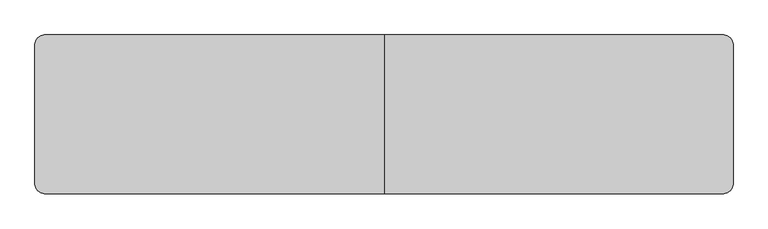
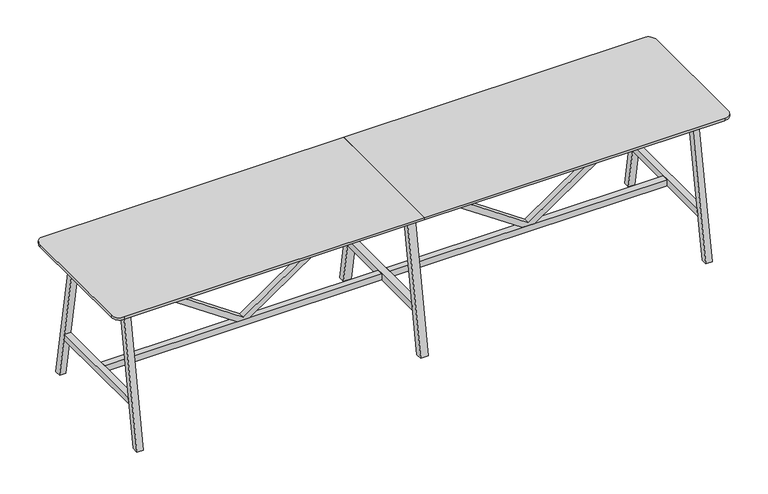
"""IFC4 building model written with IfcOpenShell, lengths in millimetres: furniture geometry, BDG_BossDesign_Tbls_AgentTables6Legs : AGE-HT-6L-4400-1000-3D."""

from ifc_helpers import new_model, si_unit, point, frame, frame_2d, origin, place, context, project, spatial, polyline, circle_curve, trimmed, segment, composite_curve, outline, extrude, source, transform, mapped, element, save


def furniture_1006f0d8(model_context):
    return source(origin(), model_context, "Body", "SweptSolid", [
        extrude(outline(polyline([(345.0, 974.0823957), (345.0, 1058.4176043), (992.0, 2005.0), (1032.0, 2005.0), (1032.0, 1985.0), (365.0, 1016.25), (1032.0, 47.5), (1032.0, 27.5), (992.0, 27.5), (345.0, 974.0823957)])), frame((0.0, -22.5000305, 0.0), z_axis=(0.0, 1.0, 0.0), x_axis=(0.0, 0.0, 1.0)), (0.0, 0.0, 1.0), 45.000061),
        extrude(outline(polyline([(345.0, -974.0823957), (992.0, -27.5), (1032.0, -27.5), (1032.0, -47.5), (365.0, -1016.25), (1032.0, -1985.0), (1032.0, -2005.0), (992.0, -2005.0), (345.0, -1058.4176043), (345.0, -974.0823957)])), frame((0.0, -22.5000305, 0.0), z_axis=(0.0, 1.0, 0.0), x_axis=(0.0, 0.0, 1.0)), (0.0, 0.0, 1.0), 45.000061),
        extrude(outline(polyline([(500.0, 0.0), (454.9999949, 0.0), (285.5, 970.0), (330.5000051, 970.0), (500.0, 0.0)])), frame((-27.5, 0.0, 0.0), z_axis=(1.0, 0.0, 0.0), x_axis=(0.0, 1.0, 0.0)), (0.0, 0.0, 1.0), 55.0),
        extrude(outline(polyline([(-500.0, 0.0), (-330.5000051, 970.0), (-285.5, 970.0), (-454.9999949, 0.0), (-500.0, 0.0)])), frame((-27.5, 0.0, 0.0), z_axis=(1.0, 0.0, 0.0), x_axis=(0.0, 1.0, 0.0)), (0.0, 0.0, 1.0), 55.0),
        extrude(outline(polyline([(402.5773161, 300.0), (-402.5773161, 300.0), (-394.7139143, 345.0), (394.7139143, 345.0), (402.5773161, 300.0)])), frame((-27.5, 0.0, 0.0), z_axis=(1.0, 0.0, 0.0), x_axis=(0.0, 1.0, 0.0)), (0.0, 0.0, 1.0), 55.0),
        extrude(outline(composite_curve([segment(polyline([(0.0, 500.0), (0.0, -500.0), (-2140.0, -500.0)]), True, "CONTINUOUS"), segment(trimmed(circle_curve(frame_2d((-2140.0, -440.0)), 60.0), [point((-2140.0, -500.0))], [point((-2200.0, -440.0))], False, "CARTESIAN"), True, "CONTINUOUS"), segment(polyline([(-2200.0, -440.0), (-2200.0, 440.0)]), True, "CONTINUOUS"), segment(trimmed(circle_curve(frame_2d((-2140.0, 440.0)), 60.0), [point((-2200.0, 440.0))], [point((-2140.0, 500.0))], False, "CARTESIAN"), True, "CONTINUOUS"), segment(polyline([(-2140.0, 500.0), (0.0, 500.0)]), True, "CONTINUOUS")], self_intersect=False)), frame((0.0, 0.0, 1032.0), z_axis=(0.0, 0.0, 1.0), x_axis=(1.0, 0.0, 0.0)), (0.0, 0.0, 1.0), 18.0),
        extrude(outline(polyline([(-394.7139143, 345.0), (394.7139143, 345.0), (402.5773161, 300.0), (-402.5773161, 300.0), (-394.7139143, 345.0)])), frame((2005.0, 0.0, 0.0), z_axis=(1.0, 0.0, 0.0), x_axis=(0.0, 1.0, 0.0)), (0.0, 0.0, 1.0), 45.0),
        extrude(outline(polyline([(500.0, 0.0), (454.9999949, 0.0), (285.5, 970.0), (330.5000051, 970.0), (500.0, 0.0)])), frame((-2050.0, 0.0, 0.0), z_axis=(1.0, 0.0, 0.0), x_axis=(0.0, 1.0, 0.0)), (0.0, 0.0, 1.0), 45.0),
        extrude(outline(polyline([(-500.0, 0.0), (-330.5000051, 970.0), (-285.5, 970.0), (-454.9999949, 0.0), (-500.0, 0.0)])), frame((-2050.0, 0.0, 0.0), z_axis=(1.0, 0.0, 0.0), x_axis=(0.0, 1.0, 0.0)), (0.0, 0.0, 1.0), 45.0),
        extrude(outline(polyline([(-394.7139143, 345.0), (394.7139143, 345.0), (402.5773161, 300.0), (-402.5773161, 300.0), (-394.7139143, 345.0)])), frame((-2050.0, 0.0, 0.0), z_axis=(1.0, 0.0, 0.0), x_axis=(0.0, 1.0, 0.0)), (0.0, 0.0, 1.0), 45.0),
        extrude(outline(polyline([(-326.6006165, 944.973938), (-304.2770691, 1032.0), (-279.5, 1032.0), (-301.8235474, 944.973938), (-326.6006165, 944.973938)])), frame((-2005.0, 0.0, 0.0), z_axis=(1.0, 0.0, 0.0), x_axis=(0.0, 1.0, 0.0)), (0.0, 0.0, 1.0), 4010.0),
        extrude(outline(polyline([(326.6006165, 944.973938), (301.8235474, 944.973938), (279.5, 1032.0), (304.2770691, 1032.0), (326.6006165, 944.973938)])), frame((-2005.0, 0.0, 0.0), z_axis=(1.0, 0.0, 0.0), x_axis=(0.0, 1.0, 0.0)), (0.0, 0.0, 1.0), 4010.0),
        extrude(outline(polyline([(499.7999878, 0.0), (454.7999827, 0.0), (285.5, 970.0), (330.5000051, 970.0), (499.7999878, 0.0)])), frame((2005.0, 0.0, 0.0), z_axis=(1.0, 0.0, 0.0), x_axis=(0.0, 1.0, 0.0)), (0.0, 0.0, 1.0), 45.0),
        extrude(outline(polyline([(-499.7999878, 0.0), (-330.5000051, 970.0), (-285.5, 970.0), (-454.7999827, 0.0), (-499.7999878, 0.0)])), frame((2005.0, 0.0, 0.0), z_axis=(1.0, 0.0, 0.0), x_axis=(0.0, 1.0, 0.0)), (0.0, 0.0, 1.0), 45.0),
        extrude(outline(polyline([(-27.5, 22.5000305), (-27.5, -22.5000305), (-2005.0, -22.5000305), (-2005.0, 22.5000305), (-27.5, 22.5000305)])), frame((0.0, 0.0, 300.0), z_axis=(0.0, 0.0, 1.0), x_axis=(1.0, 0.0, 0.0)), (0.0, 0.0, 1.0), 45.0),
        extrude(outline(polyline([(27.5, -22.5000305), (27.5, 22.5000305), (2005.0, 22.5000305), (2005.0, -22.5000305), (27.5, -22.5000305)])), frame((0.0, 0.0, 300.0), z_axis=(0.0, 0.0, 1.0), x_axis=(1.0, 0.0, 0.0)), (0.0, 0.0, 1.0), 45.0),
        extrude(outline(composite_curve([segment(trimmed(circle_curve(frame_2d((2140.0, 440.0)), 60.0), [point((2140.0, 500.0))], [point((2200.0, 440.0))], False, "CARTESIAN"), True, "CONTINUOUS"), segment(polyline([(2200.0, 440.0), (2200.0, -440.0)]), True, "CONTINUOUS"), segment(trimmed(circle_curve(frame_2d((2140.0, -440.0)), 60.0), [point((2200.0, -440.0))], [point((2140.0, -500.0))], False, "CARTESIAN"), True, "CONTINUOUS"), segment(polyline([(2140.0, -500.0), (0.0, -500.0), (0.0, 500.0), (2140.0, 500.0)]), True, "CONTINUOUS")], self_intersect=False)), frame((0.0, 0.0, 1032.0), z_axis=(0.0, 0.0, 1.0), x_axis=(1.0, 0.0, 0.0)), (0.0, 0.0, 1.0), 18.0),
    ])


if __name__ == "__main__":
    model = new_model("IFC4")
    model_context = context("Model", 3, world=origin())
    ifc_project = project(units=[si_unit("LENGTHUNIT", "METRE", prefix="MILLI")], contexts=[model_context])
    site = spatial("IfcSite", under=ifc_project)
    building = spatial("IfcBuilding", under=site)
    placement = place(None, origin())
    furniture_shape = furniture_1006f0d8(model_context)
    element("IfcFurniture", 1, ObjectType="BDG_BossDesign_Tbls_AgentTables6Legs : AGE-HT-6L-4400-1000-3D", at=placement, inside=building, context=model_context, shape_type="MappedRepresentation", body=[
        mapped(furniture_shape, transform((0.0, 0.0, 0.0), x_axis=(1.0, 0.0, 0.0), y_axis=(0.0, 1.0, 0.0), z_axis=(0.0, 0.0, 1.0))),
    ])
    save(model, "model.ifc")
